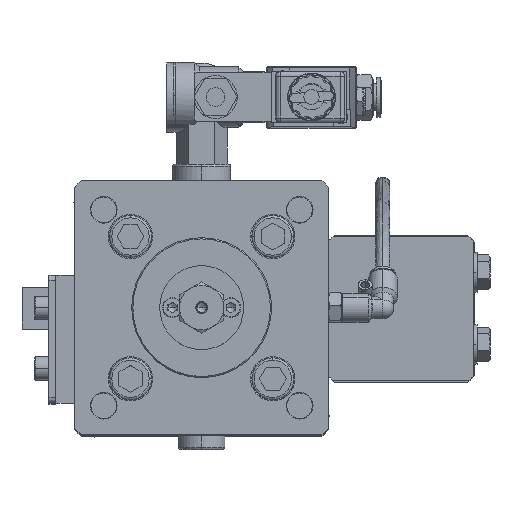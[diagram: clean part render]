
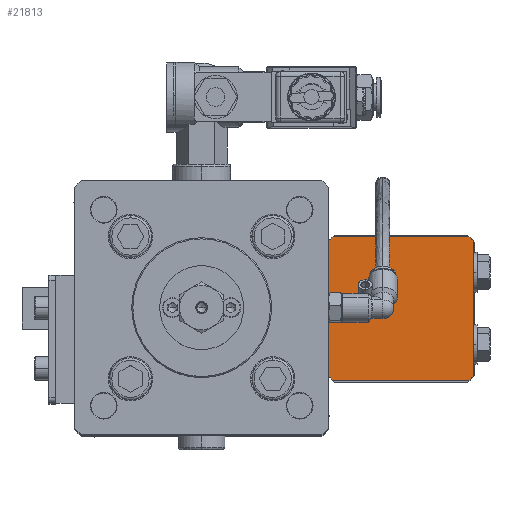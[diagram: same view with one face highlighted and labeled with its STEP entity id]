
A CAD part, top view. The second image highlights one B-rep face of the part: STEP entity #21813.
In plain terms, the highlighted planar face has unit normal (0, 0, 1) as drawn and (0, -1, 0) by its records, which use the part's own axes.
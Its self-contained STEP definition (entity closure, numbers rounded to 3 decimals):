
#66 = ORIENTED_EDGE ( 'NONE', *, *, #92544, .T. ) ;
#4286 = EDGE_CURVE ( 'NONE', #97239, #23970, #58932, .T. ) ;
#4446 = EDGE_CURVE ( 'NONE', #31173, #46866, #87512, .T. ) ;
#5229 = CARTESIAN_POINT ( 'NONE',  ( -31., 0., -29.073 ) ) ;
#5560 = VECTOR ( 'NONE', #11524, 1000. ) ;
#5957 = ORIENTED_EDGE ( 'NONE', *, *, #13249, .F. ) ;
#6271 = DIRECTION ( 'NONE',  ( 0., 0., 1. ) ) ;
#8584 = VERTEX_POINT ( 'NONE', #80527 ) ;
#11524 = DIRECTION ( 'NONE',  ( 0., 0., -1. ) ) ;
#13249 = EDGE_CURVE ( 'NONE', #31173, #74955, #96837, .T. ) ;
#15946 = DIRECTION ( 'NONE',  ( 0., -1., 0. ) ) ;
#21813 = ADVANCED_FACE ( 'NONE', ( #27712 ), #24244, .F. ) ;
#23970 = VERTEX_POINT ( 'NONE', #96243 ) ;
#24028 = AXIS2_PLACEMENT_3D ( 'NONE', #92229, #42462, #100568 ) ;
#24244 = PLANE ( 'NONE',  #30917 ) ;
#24753 = DIRECTION ( 'NONE',  ( 0., -1., 0. ) ) ;
#25053 = CARTESIAN_POINT ( 'NONE',  ( -31., 0., -31. ) ) ;
#27712 = FACE_OUTER_BOUND ( 'NONE', #46547, .T. ) ;
#28781 = ORIENTED_EDGE ( 'NONE', *, *, #72377, .F. ) ;
#30917 = AXIS2_PLACEMENT_3D ( 'NONE', #40934, #82748, #32942 ) ;
#31173 = VERTEX_POINT ( 'NONE', #81125 ) ;
#32942 = DIRECTION ( 'NONE',  ( 0., 0., 1. ) ) ;
#36830 = LINE ( 'NONE', #66039, #56329 ) ;
#40519 = ORIENTED_EDGE ( 'NONE', *, *, #4446, .T. ) ;
#40934 = CARTESIAN_POINT ( 'NONE',  ( 0., 0., 0. ) ) ;
#42462 = DIRECTION ( 'NONE',  ( 0., -1., 0. ) ) ;
#46547 = EDGE_LOOP ( 'NONE', ( #40519, #28781, #89526, #63154, #102527, #62025, #66, #5957 ) ) ;
#46866 = VERTEX_POINT ( 'NONE', #100925 ) ;
#47591 = DIRECTION ( 'NONE',  ( 1., 0., 0. ) ) ;
#48382 = CARTESIAN_POINT ( 'NONE',  ( 29.073, 0., -31. ) ) ;
#50050 = VECTOR ( 'NONE', #47591, 1000. ) ;
#53700 = VERTEX_POINT ( 'NONE', #63152 ) ;
#55992 = DIRECTION ( 'NONE',  ( 0., -1., 0. ) ) ;
#56046 = AXIS2_PLACEMENT_3D ( 'NONE', #105774, #55992, #6271 ) ;
#56329 = VECTOR ( 'NONE', #74397, 1000. ) ;
#58618 = VECTOR ( 'NONE', #83544, 1000. ) ;
#58932 = CIRCLE ( 'NONE', #56046, 42.5 ) ;
#62025 = ORIENTED_EDGE ( 'NONE', *, *, #87495, .F. ) ;
#63152 = CARTESIAN_POINT ( 'NONE',  ( 31., 0., -29.073 ) ) ;
#63154 = ORIENTED_EDGE ( 'NONE', *, *, #103662, .F. ) ;
#65707 = CARTESIAN_POINT ( 'NONE',  ( 0., 0., 0. ) ) ;
#66039 = CARTESIAN_POINT ( 'NONE',  ( -31., 0., -31. ) ) ;
#69085 = CIRCLE ( 'NONE', #79760, 42.5 ) ;
#72377 = EDGE_CURVE ( 'NONE', #97239, #46866, #80753, .T. ) ;
#74063 = DIRECTION ( 'NONE',  ( 0., 0., 1. ) ) ;
#74397 = DIRECTION ( 'NONE',  ( -1., 0., 0. ) ) ;
#74527 = CARTESIAN_POINT ( 'NONE',  ( 0., 0., 0. ) ) ;
#74955 = VERTEX_POINT ( 'NONE', #91924 ) ;
#76446 = VERTEX_POINT ( 'NONE', #48382 ) ;
#77973 = CARTESIAN_POINT ( 'NONE',  ( 31., 0., -31. ) ) ;
#79760 = AXIS2_PLACEMENT_3D ( 'NONE', #65707, #15946, #74063 ) ;
#80527 = CARTESIAN_POINT ( 'NONE',  ( 31., 0., 29.073 ) ) ;
#80753 = LINE ( 'NONE', #25053, #58618 ) ;
#81125 = CARTESIAN_POINT ( 'NONE',  ( -29.073, 0., 31. ) ) ;
#82748 = DIRECTION ( 'NONE',  ( 0., 1., 0. ) ) ;
#82910 = DIRECTION ( 'NONE',  ( 0., 0., 1. ) ) ;
#83544 = DIRECTION ( 'NONE',  ( 0., 0., 1. ) ) ;
#87495 = EDGE_CURVE ( 'NONE', #8584, #53700, #93915, .T. ) ;
#87512 = CIRCLE ( 'NONE', #89485, 42.5 ) ;
#89485 = AXIS2_PLACEMENT_3D ( 'NONE', #74527, #24753, #82910 ) ;
#89526 = ORIENTED_EDGE ( 'NONE', *, *, #4286, .T. ) ;
#91924 = CARTESIAN_POINT ( 'NONE',  ( 29.073, 0., 31. ) ) ;
#92229 = CARTESIAN_POINT ( 'NONE',  ( 0., 0., 0. ) ) ;
#92544 = EDGE_CURVE ( 'NONE', #8584, #74955, #69085, .T. ) ;
#93915 = LINE ( 'NONE', #77973, #5560 ) ;
#96243 = CARTESIAN_POINT ( 'NONE',  ( -29.073, 0., -31. ) ) ;
#96837 = LINE ( 'NONE', #97687, #50050 ) ;
#97239 = VERTEX_POINT ( 'NONE', #5229 ) ;
#97687 = CARTESIAN_POINT ( 'NONE',  ( -31., 0., 31. ) ) ;
#98189 = CIRCLE ( 'NONE', #24028, 42.5 ) ;
#100568 = DIRECTION ( 'NONE',  ( 0., 0., 1. ) ) ;
#100925 = CARTESIAN_POINT ( 'NONE',  ( -31., 0., 29.073 ) ) ;
#102083 = EDGE_CURVE ( 'NONE', #76446, #53700, #98189, .T. ) ;
#102527 = ORIENTED_EDGE ( 'NONE', *, *, #102083, .T. ) ;
#103662 = EDGE_CURVE ( 'NONE', #76446, #23970, #36830, .T. ) ;
#105774 = CARTESIAN_POINT ( 'NONE',  ( 0., 0., 0. ) ) ;
